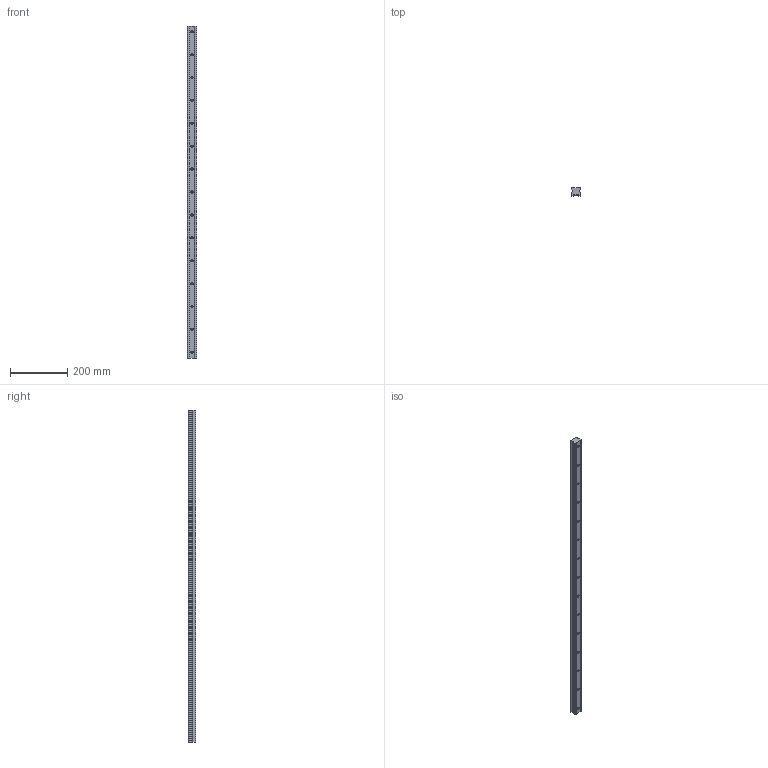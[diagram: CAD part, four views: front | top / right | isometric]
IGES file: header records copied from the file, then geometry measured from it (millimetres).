
Start section: SolidWorks IGES file using analytic representation for surfaces
Global section: file name: C:\Users\IanO\Desktop\Temp File\GENERAL\L1016_v2\L1016.RF35_v2\L1016.RF35_v2_20190612_IGES\L1016.RF35-1160.igs; native system: SolidWorks 2017; preprocessor: SolidWorks 2017; author: IanO; date: 190613.172701; units: millimetre
Bounding box: 34 x 26 x 1160 mm (x, y, z)
Surface area: 152201.9 mm2 (no closed solid volume)
Topology: 0 solids, 0 shells, 131 faces, 1968 edges, 1938 vertices
Faces by surface type: revolution 94, bspline 37
